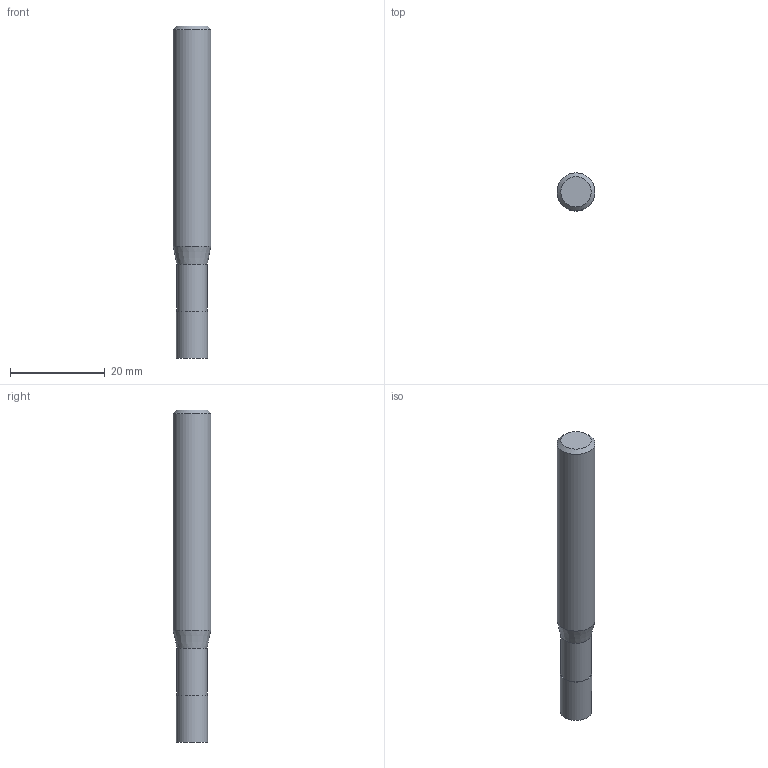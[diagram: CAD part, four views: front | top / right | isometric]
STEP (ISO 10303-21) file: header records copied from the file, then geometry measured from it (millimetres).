
FILE_DESCRIPTION((''),'2;1');
FILE_NAME('C:\Users\nsx150\AppData\Local\Temp\Mastercam 2021\EUJSUNXURU\TEMP.step','2021-04-22T10:29:00',(''),(''),'STEP Write','Mastercam 2021 ... CNC Software, Inc.','');
FILE_SCHEMA(('AUTOMOTIVE_DESIGN'));
Length unit declared in the file: millimetre
Products named in the file (1): None
Bounding box: 8 x 8 x 70 mm (x, y, z)
Volume: 3137.7 mm3; surface area: 1796.7 mm2
Topology: 2 solids, 2 shells, 9 faces, 12 edges, 7 vertices
Faces by surface type: plane 4, cylinder 3, cone 2
Full cylindrical faces by diameter (mm): 6.4 x1, 6.6 x1, 8 x1
Entity records: 211 total; most frequent: DIRECTION 36, CARTESIAN_POINT 25, AXIS2_PLACEMENT_3D 18, ORIENTED_EDGE 14, EDGE_LOOP 14, STYLED_ITEM 12, ADVANCED_FACE 9, FACE_BOUND 8
